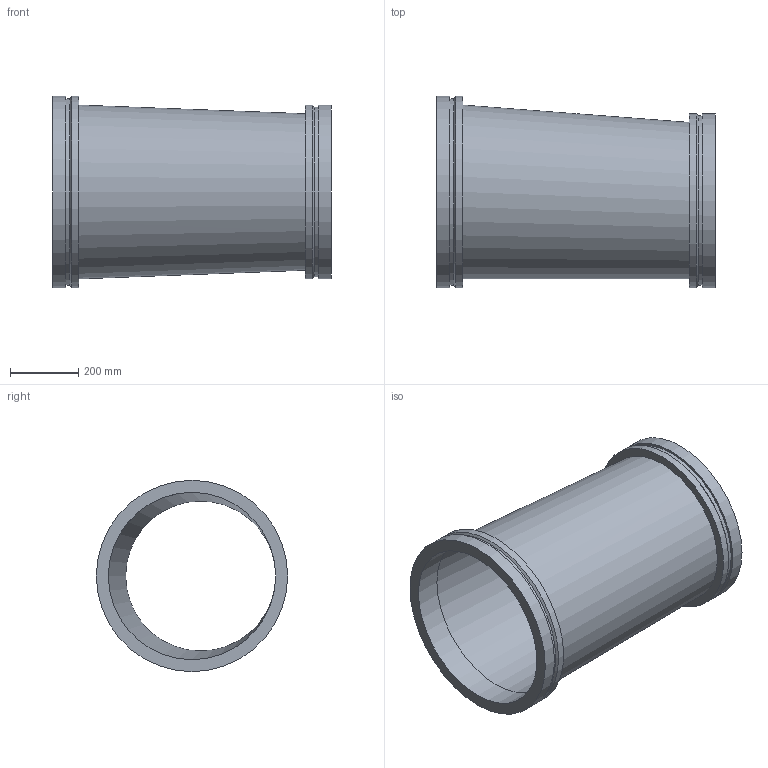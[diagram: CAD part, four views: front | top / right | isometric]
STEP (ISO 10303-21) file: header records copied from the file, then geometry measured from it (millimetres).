
FILE_DESCRIPTION(/* description */ ('VIC REDUCER ECCENTRIC No W51-VR','CAx-IF Rec.Pracs.---Representation and Presentation of Product Manufacturing Information (PMI)---4.0---2014-10-13'),/* implementation_level */ '2;1');
FILE_NAME(/* name */ 'C:\Users\kkamble\AppData\Roaming\Autodesk\ApplicationPlugins\Back Up\Victaulic_Vic-Ring_Reducer Eccentric_No W51 VR (AGR)\Victaulic_Vic-Ring_Reducer Eccentric_No W51 VR (AGR)_20.0x18.0 (500x450).stp',/* time_stamp */ '2020-09-10T11:49:12+05:00',/* author */ ('CONSTRUCTION PIPING SERVICES'),/* organization */ ('Victaulic'),/* preprocessor_version */ 'ST-DEVELOPER v17.2',/* originating_system */ 'Autodesk Inventor 2019',/* authorisation */ '');
FILE_SCHEMA (('AP242_MANAGED_MODEL_BASED_3D_ENGINEERING_MIM_LF { 1 0 10303 442 1 1 4 }'));
Length unit declared in the file: inch
Products named in the file (1): W51 VR-20.0x18.0
Bounding box: 812.8 x 558.8 x 558.8 mm (x, y, z)
Volume: 17399821.8 mm3; surface area: 2662672.4 mm2
Topology: 1 solids, 1 shells, 18 faces, 49 edges, 37 vertices
Faces by surface type: cylinder 8, plane 6, cone 2, bspline 2
Full cylindrical faces by diameter (mm): 438.15 x1, 488.95 x1, 495.3 x1, 508 x2, 546.1 x1, 558.8 x2
Entity records: 792 total; most frequent: CARTESIAN_POINT 158, DIRECTION 144, ORIENTED_EDGE 98, AXIS2_PLACEMENT_3D 67, EDGE_CURVE 49, CIRCLE 37, VERTEX_POINT 37, EDGE_LOOP 24
